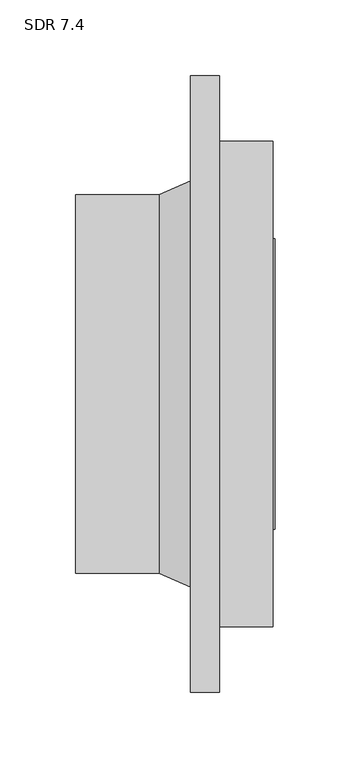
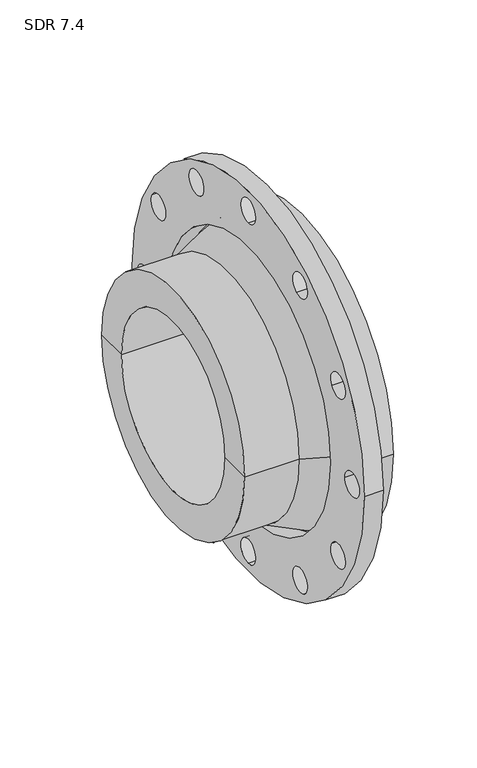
"""IFC4 building model written with IfcOpenShell, lengths in millimetres: valve geometry, Aquatherm - Flange Adapter Butt-Weld : SDR 7.4."""

from ifc_helpers import new_model, si_unit, point, frame, frame_2d, origin, origin_2d, place, context, project, spatial, polyline, circle_curve, trimmed, segment, composite_curve, outline, extrude, source, transform, mapped, element, save
from ifc_brep_helpers import plane_surface, cylinder_surface, revolved_surface, advanced_brep


def sdr_7_4_93f8967e(model_context):
    return source(origin(), model_context, "Body", "SolidModel", [
        extrude(outline(composite_curve([segment(trimmed(circle_curve(origin_2d(), 203.2), [point((-203.2, 0.0))], [point((203.2, 0.0))], False, "CARTESIAN"), True, "CONTINUOUS"), segment(trimmed(circle_curve(origin_2d(), 203.2), [point((203.2, 0.0))], [point((-203.2, 0.0))], False, "CARTESIAN"), True, "CONTINUOUS")], self_intersect=False), holes=[composite_curve([segment(trimmed(circle_curve(origin_2d(), 143.51), [point((-143.51, 0.0))], [point((143.51, 0.0))], True, "CARTESIAN"), True, "CONTINUOUS"), segment(trimmed(circle_curve(origin_2d(), 143.51), [point((143.51, 0.0))], [point((-143.51, 0.0))], True, "CARTESIAN"), True, "CONTINUOUS")], self_intersect=False), composite_curve([segment(trimmed(circle_curve(frame_2d((181.61, 0.0)), 12.7), [point((168.91, 0.0))], [point((194.31, 0.0))], True, "CARTESIAN"), True, "CONTINUOUS"), segment(trimmed(circle_curve(frame_2d((181.61, 0.0)), 12.7), [point((194.31, 0.0))], [point((168.91, 0.0))], True, "CARTESIAN"), True, "CONTINUOUS")], self_intersect=False), composite_curve([segment(trimmed(circle_curve(frame_2d((157.2788736, -90.805)), 12.7), [point((146.280351, -84.455))], [point((168.2773962, -97.155))], True, "CARTESIAN"), True, "CONTINUOUS"), segment(trimmed(circle_curve(frame_2d((157.2788736, -90.805)), 12.7), [point((168.2773962, -97.155))], [point((146.280351, -84.455))], True, "CARTESIAN"), True, "CONTINUOUS")], self_intersect=False), composite_curve([segment(trimmed(circle_curve(frame_2d((157.2788736, 90.805)), 12.7), [point((146.280351, 84.455))], [point((168.2773962, 97.155))], True, "CARTESIAN"), True, "CONTINUOUS"), segment(trimmed(circle_curve(frame_2d((157.2788736, 90.805)), 12.7), [point((168.2773962, 97.155))], [point((146.280351, 84.455))], True, "CARTESIAN"), True, "CONTINUOUS")], self_intersect=False), composite_curve([segment(trimmed(circle_curve(frame_2d((90.805, 157.2788736)), 12.7), [point((84.455, 146.280351))], [point((97.155, 168.2773962))], True, "CARTESIAN"), True, "CONTINUOUS"), segment(trimmed(circle_curve(frame_2d((90.805, 157.2788736)), 12.7), [point((97.155, 168.2773962))], [point((84.455, 146.280351))], True, "CARTESIAN"), True, "CONTINUOUS")], self_intersect=False), composite_curve([segment(trimmed(circle_curve(frame_2d((0.0, 181.61)), 12.7), [point((0.0, 168.91))], [point((0.0, 194.31))], True, "CARTESIAN"), True, "CONTINUOUS"), segment(trimmed(circle_curve(frame_2d((0.0, 181.61)), 12.7), [point((0.0, 194.31))], [point((0.0, 168.91))], True, "CARTESIAN"), True, "CONTINUOUS")], self_intersect=False), composite_curve([segment(trimmed(circle_curve(frame_2d((-90.805, 157.2788736)), 12.7), [point((-84.455, 146.280351))], [point((-97.155, 168.2773962))], True, "CARTESIAN"), True, "CONTINUOUS"), segment(trimmed(circle_curve(frame_2d((-90.805, 157.2788736)), 12.7), [point((-97.155, 168.2773962))], [point((-84.455, 146.280351))], True, "CARTESIAN"), True, "CONTINUOUS")], self_intersect=False), composite_curve([segment(trimmed(circle_curve(frame_2d((-157.2788736, 90.805)), 12.7), [point((-146.280351, 84.455))], [point((-168.2773962, 97.155))], True, "CARTESIAN"), True, "CONTINUOUS"), segment(trimmed(circle_curve(frame_2d((-157.2788736, 90.805)), 12.7), [point((-168.2773962, 97.155))], [point((-146.280351, 84.455))], True, "CARTESIAN"), True, "CONTINUOUS")], self_intersect=False), composite_curve([segment(trimmed(circle_curve(frame_2d((-181.61, 0.0)), 12.7), [point((-168.91, 0.0))], [point((-194.31, 0.0))], True, "CARTESIAN"), True, "CONTINUOUS"), segment(trimmed(circle_curve(frame_2d((-181.61, 0.0)), 12.7), [point((-194.31, 0.0))], [point((-168.91, 0.0))], True, "CARTESIAN"), True, "CONTINUOUS")], self_intersect=False), composite_curve([segment(trimmed(circle_curve(frame_2d((-157.2788736, -90.805)), 12.7), [point((-146.280351, -84.455))], [point((-168.2773962, -97.155))], True, "CARTESIAN"), True, "CONTINUOUS"), segment(trimmed(circle_curve(frame_2d((-157.2788736, -90.805)), 12.7), [point((-168.2773962, -97.155))], [point((-146.280351, -84.455))], True, "CARTESIAN"), True, "CONTINUOUS")], self_intersect=False), composite_curve([segment(trimmed(circle_curve(frame_2d((-90.805, -157.2788736)), 12.7), [point((-84.455, -146.280351))], [point((-97.155, -168.2773962))], True, "CARTESIAN"), True, "CONTINUOUS"), segment(trimmed(circle_curve(frame_2d((-90.805, -157.2788736)), 12.7), [point((-97.155, -168.2773962))], [point((-84.455, -146.280351))], True, "CARTESIAN"), True, "CONTINUOUS")], self_intersect=False), composite_curve([segment(trimmed(circle_curve(frame_2d((0.0, -181.61)), 12.7), [point((0.0, -168.91))], [point((0.0, -194.31))], True, "CARTESIAN"), True, "CONTINUOUS"), segment(trimmed(circle_curve(frame_2d((0.0, -181.61)), 12.7), [point((0.0, -194.31))], [point((0.0, -168.91))], True, "CARTESIAN"), True, "CONTINUOUS")], self_intersect=False), composite_curve([segment(trimmed(circle_curve(frame_2d((90.805, -157.2788736)), 12.7), [point((84.455, -146.280351))], [point((97.155, -168.2773962))], True, "CARTESIAN"), True, "CONTINUOUS"), segment(trimmed(circle_curve(frame_2d((90.805, -157.2788736)), 12.7), [point((97.155, -168.2773962))], [point((84.455, -146.280351))], True, "CARTESIAN"), True, "CONTINUOUS")], self_intersect=False)]), frame((-19.05, 0.0, 0.0), z_axis=(1.0, 0.0, 0.0), x_axis=(0.0, 1.0, 0.0)), (0.0, 0.0, 1.0), 19.05),
        advanced_brep(
        [(35.052, 160.02, 0.0), (35.052, -160.02, 0.0), (0.0, -160.02, 0.0), (0.0, 160.02, 0.0), (36.6395, 90.678, 0.0), (36.6395, -90.678, 0.0), (36.6395, -95.758, 0.0), (36.6395, 95.758, 0.0), (-94.996, 90.678, 0.0), (-94.996, -90.678, 0.0), (-94.996, 124.968, 0.0), (-94.996, -124.968, 0.0), (-39.878, 124.968, 0.0), (-39.878, -124.968, 0.0), (0.0, -142.24, 0.0), (0.0, 142.24, 0.0), (35.052, 95.758, 0.0), (35.052, -95.758, 0.0)],
        [
            (0, 1, circle_curve(frame((35.052, 0.0, 0.0), z_axis=(-1.0, 0.0, 0.0), x_axis=(0.0, -1.0, 0.0)), 160.02)),
            (1, 2),
            (2, 3, circle_curve(frame((0.0, 0.0, 0.0), z_axis=(1.0, 0.0, 0.0), x_axis=(0.0, -1.0, 0.0)), 160.02)),
            (3, 0),
            (1, 0, circle_curve(frame((35.052, 0.0, 0.0), z_axis=(-1.0, 0.0, 0.0), x_axis=(0.0, -1.0, 0.0)), 160.02)),
            (3, 2, circle_curve(frame((0.0, 0.0, 0.0), z_axis=(1.0, 0.0, 0.0), x_axis=(0.0, -1.0, 0.0)), 160.02)),
            (4, 5, circle_curve(frame((36.6395, 0.0, 0.0), z_axis=(-1.0, 0.0, 0.0), x_axis=(0.0, -1.0, 0.0)), 90.678)),
            (5, 6),
            (6, 7, circle_curve(frame((36.6395, 0.0, 0.0), z_axis=(1.0, 0.0, 0.0), x_axis=(0.0, -1.0, 0.0)), 95.758)),
            (7, 4),
            (5, 4, circle_curve(frame((36.6395, 0.0, 0.0), z_axis=(-1.0, 0.0, 0.0), x_axis=(0.0, -1.0, 0.0)), 90.678)),
            (7, 6, circle_curve(frame((36.6395, 0.0, 0.0), z_axis=(1.0, 0.0, 0.0), x_axis=(0.0, -1.0, 0.0)), 95.758)),
            (8, 9, circle_curve(frame((-94.996, 0.0, 0.0), z_axis=(-1.0, 0.0, 0.0), x_axis=(0.0, -1.0, 0.0)), 90.678)),
            (9, 5),
            (4, 8),
            (9, 8, circle_curve(frame((-94.996, 0.0, 0.0), z_axis=(-1.0, 0.0, 0.0), x_axis=(0.0, -1.0, 0.0)), 90.678)),
            (10, 11, circle_curve(frame((-94.996, 0.0, 0.0), z_axis=(-1.0, 0.0, 0.0), x_axis=(0.0, -1.0, 0.0)), 124.968)),
            (11, 9),
            (8, 10),
            (11, 10, circle_curve(frame((-94.996, 0.0, 0.0), z_axis=(-1.0, 0.0, 0.0), x_axis=(0.0, -1.0, 0.0)), 124.968)),
            (12, 13, circle_curve(frame((-39.878, 0.0, 0.0), z_axis=(-1.0, 0.0, 0.0), x_axis=(0.0, -1.0, 0.0)), 124.968)),
            (13, 11),
            (10, 12),
            (13, 12, circle_curve(frame((-39.878, 0.0, 0.0), z_axis=(-1.0, 0.0, 0.0), x_axis=(0.0, -1.0, 0.0)), 124.968)),
            (2, 14),
            (14, 15, circle_curve(frame((0.0, 0.0, 0.0), z_axis=(1.0, 0.0, 0.0), x_axis=(0.0, -1.0, 0.0)), 142.24)),
            (15, 3),
            (15, 14, circle_curve(frame((0.0, 0.0, 0.0), z_axis=(1.0, 0.0, 0.0), x_axis=(0.0, -1.0, 0.0)), 142.24)),
            (16, 17, circle_curve(frame((35.052, 0.0, 0.0), z_axis=(-1.0, 0.0, 0.0), x_axis=(0.0, -1.0, 0.0)), 95.758)),
            (17, 1),
            (0, 16),
            (17, 16, circle_curve(frame((35.052, 0.0, 0.0), z_axis=(-1.0, 0.0, 0.0), x_axis=(0.0, -1.0, 0.0)), 95.758)),
            (6, 17),
            (16, 7),
            (14, 13),
            (12, 15),
        ],
        [
            cylinder_surface(frame((1475.6909321, 0.0, 0.0), z_axis=(1.0, 0.0, 0.0), x_axis=(0.0, -1.0, 0.0)), 160.02),
            plane_surface(frame((36.6395, 0.0, 0.0), z_axis=(1.0, 0.0, 0.0), x_axis=(0.0, -1.0, 0.0))),
            revolved_surface(polyline([(36.6395, -90.678, 0.0), (-94.9960000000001, -90.678, 0.0)]), (1475.6909321, 0.0, 0.0), (1.0, 0.0, 0.0)),
            plane_surface(frame((-94.996, 0.0, 0.0), z_axis=(-1.0, 0.0, 0.0), x_axis=(0.0, -1.0, 0.0))),
            cylinder_surface(frame((1475.6909321, 0.0, 0.0), z_axis=(1.0, 0.0, 0.0), x_axis=(0.0, -1.0, 0.0)), 124.968),
            plane_surface(frame((0.0, 0.0, 0.0), z_axis=(-1.0, 0.0, 0.0), x_axis=(0.0, -1.0, 0.0))),
            plane_surface(frame((35.052, 0.0, 0.0), z_axis=(1.0, 0.0, 0.0), x_axis=(0.0, -1.0, 0.0))),
            cylinder_surface(frame((1475.6909321, 0.0, 0.0), z_axis=(1.0, 0.0, 0.0), x_axis=(0.0, -1.0, 0.0)), 95.758),
            revolved_surface(polyline([(-39.878, -124.968, 0.0), (0.0, -142.24, 0.0)]), (1475.6909321, 0.0, 0.0), (1.0, 0.0, 0.0)),
        ],
        [
            (0, [[1, 2, 3, 4]]),
            (0, [[5, -4, 6, -2]]),
            (1, [[7, 8, 9, 10]]),
            (1, [[11, -10, 12, -8]]),
            (2, [[13, 14, -7, 15]]),
            (2, [[16, -15, -11, -14]]),
            (3, [[17, 18, -13, 19]]),
            (3, [[20, -19, -16, -18]]),
            (4, [[21, 22, -17, 23]]),
            (4, [[24, -23, -20, -22]]),
            (5, [[-3, 25, 26, 27]]),
            (5, [[-6, -27, 28, -25]]),
            (6, [[29, 30, -1, 31]]),
            (6, [[32, -31, -5, -30]]),
            (7, [[-9, 33, -29, 34]]),
            (7, [[-12, -34, -32, -33]]),
            (8, [[-26, 35, -21, 36]]),
            (8, [[-28, -36, -24, -35]]),
        ],
    ),
    ])


if __name__ == "__main__":
    model = new_model("IFC4")
    model_context = context("Model", 3, world=origin())
    ifc_project = project(units=[si_unit("LENGTHUNIT", "METRE", prefix="MILLI")], contexts=[model_context])
    site = spatial("IfcSite", under=ifc_project)
    building = spatial("IfcBuilding", under=site)
    placement = place(None, origin())
    sdr_7_4_shape = sdr_7_4_93f8967e(model_context)
    element("IfcValve", 1, ObjectType="Aquatherm - Flange Adapter Butt-Weld : SDR 7.4", at=placement, inside=building, context=model_context, shape_type="MappedRepresentation", body=[
        mapped(sdr_7_4_shape, transform((0.0, 0.0, 0.0), x_axis=(1.0, 0.0, 0.0), y_axis=(0.0, 1.0, 0.0), z_axis=(0.0, 0.0, 1.0))),
    ])
    save(model, "model.ifc")
